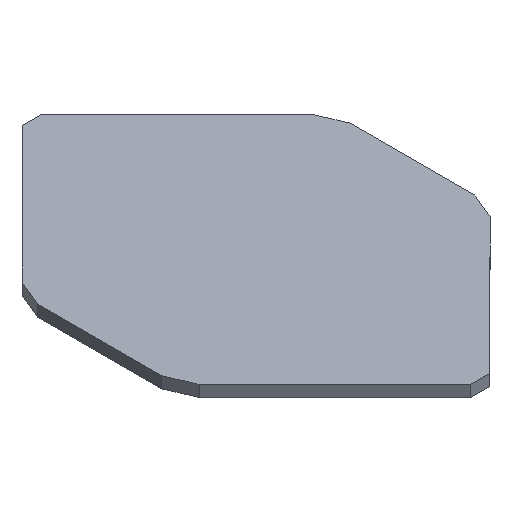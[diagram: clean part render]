
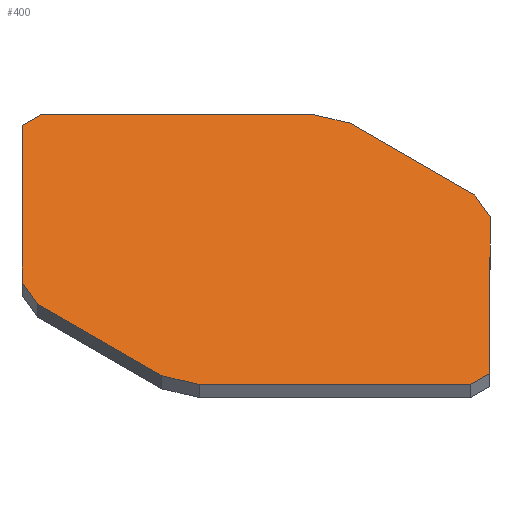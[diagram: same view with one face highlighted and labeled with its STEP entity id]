
A CAD part, isometric view. The second image highlights one B-rep face of the part: STEP entity #400.
In plain terms, the highlighted planar face has unit normal (0, 0, 1).
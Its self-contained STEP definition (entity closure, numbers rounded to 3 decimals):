
#1 = DIRECTION ( 'NONE',  ( -0.707, -0.707, 0. ) ) ;
#10 = FACE_OUTER_BOUND ( 'NONE', #48, .T. ) ;
#13 = CARTESIAN_POINT ( 'NONE',  ( 40., -24.712, 29.698 ) ) ;
#15 = VECTOR ( 'NONE', #277, 1000. ) ;
#23 = DIRECTION ( 'NONE',  ( 0., -1., 0. ) ) ;
#27 = LINE ( 'NONE', #439, #165 ) ;
#29 = EDGE_CURVE ( 'NONE', #330, #368, #200, .T. ) ;
#31 = DIRECTION ( 'NONE',  ( -0.391, 0.921, 0. ) ) ;
#36 = VECTOR ( 'NONE', #1, 1000. ) ;
#45 = DIRECTION ( 'NONE',  ( -0.391, -0.921, 0. ) ) ;
#48 = EDGE_LOOP ( 'NONE', ( #225, #423, #87, #260, #231, #257, #52, #187, #290, #331, #50, #54 ) ) ;
#50 = ORIENTED_EDGE ( 'NONE', *, *, #82, .T. ) ;
#52 = ORIENTED_EDGE ( 'NONE', *, *, #29, .T. ) ;
#54 = ORIENTED_EDGE ( 'NONE', *, *, #293, .F. ) ;
#59 = LINE ( 'NONE', #409, #15 ) ;
#63 = VECTOR ( 'NONE', #418, 1000. ) ;
#66 = EDGE_CURVE ( 'NONE', #163, #81, #408, .T. ) ;
#67 = LINE ( 'NONE', #417, #218 ) ;
#71 = DIRECTION ( 'NONE',  ( 0., 0., -1. ) ) ;
#81 = VERTEX_POINT ( 'NONE', #279 ) ;
#82 = EDGE_CURVE ( 'NONE', #189, #372, #387, .T. ) ;
#85 = DIRECTION ( 'NONE',  ( 1., 0., 0. ) ) ;
#86 = VERTEX_POINT ( 'NONE', #248 ) ;
#87 = ORIENTED_EDGE ( 'NONE', *, *, #242, .T. ) ;
#96 = VECTOR ( 'NONE', #403, 1000. ) ;
#98 = EDGE_CURVE ( 'NONE', #330, #86, #67, .T. ) ;
#99 = VECTOR ( 'NONE', #271, 1000. ) ;
#110 = DIRECTION ( 'NONE',  ( -1., 0., 0. ) ) ;
#124 = CARTESIAN_POINT ( 'NONE',  ( 20.849, 35.562, 29.698 ) ) ;
#126 = LINE ( 'NONE', #376, #99 ) ;
#129 = CARTESIAN_POINT ( 'NONE',  ( 27.698, 4., 29.698 ) ) ;
#131 = LINE ( 'NONE', #162, #401 ) ;
#138 = CARTESIAN_POINT ( 'NONE',  ( -1.698, 54.712, 29.698 ) ) ;
#141 = CARTESIAN_POINT ( 'NONE',  ( -27.698, 26., 29.698 ) ) ;
#162 = CARTESIAN_POINT ( 'NONE',  ( -27.698, 28., 29.698 ) ) ;
#163 = VERTEX_POINT ( 'NONE', #380 ) ;
#165 = VECTOR ( 'NONE', #441, 1000. ) ;
#168 = LINE ( 'NONE', #239, #317 ) ;
#176 = VERTEX_POINT ( 'NONE', #141 ) ;
#181 = CARTESIAN_POINT ( 'NONE',  ( 20.849, -5.562, 29.698 ) ) ;
#187 = ORIENTED_EDGE ( 'NONE', *, *, #324, .F. ) ;
#189 = VERTEX_POINT ( 'NONE', #138 ) ;
#194 = EDGE_CURVE ( 'NONE', #321, #86, #309, .T. ) ;
#198 = CARTESIAN_POINT ( 'NONE',  ( 1.698, -24.712, 29.698 ) ) ;
#200 = LINE ( 'NONE', #366, #237 ) ;
#218 = VECTOR ( 'NONE', #45, 1000. ) ;
#220 = VERTEX_POINT ( 'NONE', #413 ) ;
#225 = ORIENTED_EDGE ( 'NONE', *, *, #302, .T. ) ;
#228 = EDGE_CURVE ( 'NONE', #291, #220, #168, .T. ) ;
#229 = VERTEX_POINT ( 'NONE', #269 ) ;
#231 = ORIENTED_EDGE ( 'NONE', *, *, #194, .T. ) ;
#233 = VECTOR ( 'NONE', #335, 1000. ) ;
#237 = VECTOR ( 'NONE', #445, 1000. ) ;
#239 = CARTESIAN_POINT ( 'NONE',  ( -25.698, -0.712, 29.698 ) ) ;
#242 = EDGE_CURVE ( 'NONE', #291, #229, #126, .T. ) ;
#248 = CARTESIAN_POINT ( 'NONE',  ( 25.698, -0.712, 29.698 ) ) ;
#251 = CARTESIAN_POINT ( 'NONE',  ( 19.151, 75.562, 29.698 ) ) ;
#257 = ORIENTED_EDGE ( 'NONE', *, *, #98, .F. ) ;
#260 = ORIENTED_EDGE ( 'NONE', *, *, #442, .T. ) ;
#269 = CARTESIAN_POINT ( 'NONE',  ( -1.698, -24.712, 29.698 ) ) ;
#271 = DIRECTION ( 'NONE',  ( 0.707, -0.707, 0. ) ) ;
#277 = DIRECTION ( 'NONE',  ( 0.391, 0.921, 0. ) ) ;
#279 = CARTESIAN_POINT ( 'NONE',  ( 1.698, 54.712, 29.698 ) ) ;
#290 = ORIENTED_EDGE ( 'NONE', *, *, #66, .T. ) ;
#291 = VERTEX_POINT ( 'NONE', #332 ) ;
#293 = EDGE_CURVE ( 'NONE', #176, #372, #59, .T. ) ;
#302 = EDGE_CURVE ( 'NONE', #176, #220, #131, .T. ) ;
#308 = EDGE_CURVE ( 'NONE', #81, #189, #27, .T. ) ;
#309 = LINE ( 'NONE', #181, #63 ) ;
#317 = VECTOR ( 'NONE', #31, 1000. ) ;
#321 = VERTEX_POINT ( 'NONE', #198 ) ;
#324 = EDGE_CURVE ( 'NONE', #163, #368, #373, .T. ) ;
#330 = VERTEX_POINT ( 'NONE', #129 ) ;
#331 = ORIENTED_EDGE ( 'NONE', *, *, #308, .T. ) ;
#332 = CARTESIAN_POINT ( 'NONE',  ( -25.698, -0.712, 29.698 ) ) ;
#335 = DIRECTION ( 'NONE',  ( 0.391, -0.921, 0. ) ) ;
#337 = CARTESIAN_POINT ( 'NONE',  ( 25.698, 30.712, 29.698 ) ) ;
#342 = CARTESIAN_POINT ( 'NONE',  ( 27.698, 26., 29.698 ) ) ;
#348 = PLANE ( 'NONE',  #435 ) ;
#352 = CARTESIAN_POINT ( 'NONE',  ( -25.698, 30.712, 29.698 ) ) ;
#363 = LINE ( 'NONE', #13, #384 ) ;
#366 = CARTESIAN_POINT ( 'NONE',  ( 27.698, 28., 29.698 ) ) ;
#368 = VERTEX_POINT ( 'NONE', #342 ) ;
#372 = VERTEX_POINT ( 'NONE', #352 ) ;
#373 = LINE ( 'NONE', #337, #233 ) ;
#376 = CARTESIAN_POINT ( 'NONE',  ( 19.151, -45.562, 29.698 ) ) ;
#380 = CARTESIAN_POINT ( 'NONE',  ( 25.698, 30.712, 29.698 ) ) ;
#384 = VECTOR ( 'NONE', #85, 1000. ) ;
#387 = LINE ( 'NONE', #251, #36 ) ;
#400 = ADVANCED_FACE ( 'NONE', ( #10 ), #348, .F. ) ;
#401 = VECTOR ( 'NONE', #23, 1000. ) ;
#403 = DIRECTION ( 'NONE',  ( -0.707, 0.707, 0. ) ) ;
#408 = LINE ( 'NONE', #124, #96 ) ;
#409 = CARTESIAN_POINT ( 'NONE',  ( -27.698, 26., 29.698 ) ) ;
#413 = CARTESIAN_POINT ( 'NONE',  ( -27.698, 4., 29.698 ) ) ;
#417 = CARTESIAN_POINT ( 'NONE',  ( 27.698, 4., 29.698 ) ) ;
#418 = DIRECTION ( 'NONE',  ( 0.707, 0.707, 0. ) ) ;
#422 = CARTESIAN_POINT ( 'NONE',  ( 40., 28., 29.698 ) ) ;
#423 = ORIENTED_EDGE ( 'NONE', *, *, #228, .F. ) ;
#435 = AXIS2_PLACEMENT_3D ( 'NONE', #422, #71, #110 ) ;
#439 = CARTESIAN_POINT ( 'NONE',  ( 40., 54.712, 29.698 ) ) ;
#441 = DIRECTION ( 'NONE',  ( -1., 0., 0. ) ) ;
#442 = EDGE_CURVE ( 'NONE', #229, #321, #363, .T. ) ;
#445 = DIRECTION ( 'NONE',  ( 0., 1., 0. ) ) ;
